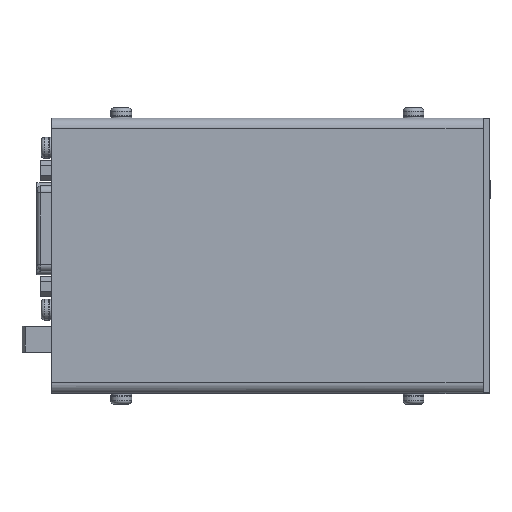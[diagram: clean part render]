
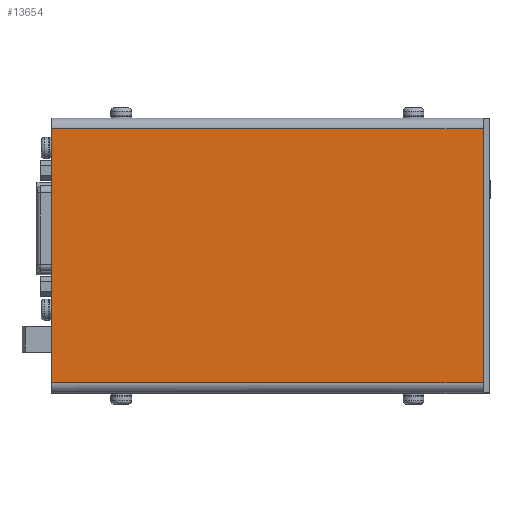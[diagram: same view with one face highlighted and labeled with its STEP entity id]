
A CAD part, top view. The second image highlights one B-rep face of the part: STEP entity #13654.
In plain terms, the highlighted planar face has unit normal (0, 0, 1).
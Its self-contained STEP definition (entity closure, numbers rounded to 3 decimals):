
#928=PLANE('',#14887);
#1809=FACE_OUTER_BOUND('',#2698,.T.);
#2698=EDGE_LOOP('',(#11957,#11958,#11959,#11960));
#2785=LINE('',#18832,#3868);
#3774=LINE('',#23407,#4857);
#3778=LINE('',#23418,#4861);
#3781=LINE('',#23425,#4864);
#3868=VECTOR('',#15290,10.);
#4857=VECTOR('',#18369,10.);
#4861=VECTOR('',#18385,10.);
#4864=VECTOR('',#18396,10.);
#5471=VERTEX_POINT('',#18828);
#5472=VERTEX_POINT('',#18830);
#6493=VERTEX_POINT('',#23406);
#6494=VERTEX_POINT('',#23416);
#6683=EDGE_CURVE('',#5472,#5471,#2785,.T.);
#8307=EDGE_CURVE('',#6493,#5471,#3774,.T.);
#8313=EDGE_CURVE('',#5472,#6494,#3778,.T.);
#8316=EDGE_CURVE('',#6493,#6494,#3781,.T.);
#11957=ORIENTED_EDGE('',*,*,#8307,.T.);
#11958=ORIENTED_EDGE('',*,*,#6683,.F.);
#11959=ORIENTED_EDGE('',*,*,#8313,.T.);
#11960=ORIENTED_EDGE('',*,*,#8316,.F.);
#13654=ADVANCED_FACE('',(#1809),#928,.T.);
#14887=AXIS2_PLACEMENT_3D('',#23426,#18397,#18398);
#15290=DIRECTION('',(0.,-1.,0.));
#18369=DIRECTION('',(1.,0.,0.));
#18385=DIRECTION('',(-1.,0.,0.));
#18396=DIRECTION('',(0.,1.,0.));
#18397=DIRECTION('center_axis',(0.,0.,1.));
#18398=DIRECTION('ref_axis',(1.,0.,0.));
#18828=CARTESIAN_POINT('',(62.,-36.55,2.));
#18830=CARTESIAN_POINT('',(62.,36.55,2.));
#18832=CARTESIAN_POINT('',(62.,39.55,2.));
#23406=CARTESIAN_POINT('',(-62.,-36.55,2.));
#23407=CARTESIAN_POINT('',(-31.,-36.55,2.));
#23416=CARTESIAN_POINT('',(-62.,36.55,2.));
#23418=CARTESIAN_POINT('',(31.,36.55,2.));
#23425=CARTESIAN_POINT('',(-62.,-39.55,2.));
#23426=CARTESIAN_POINT('Origin',(0.,0.,2.));
